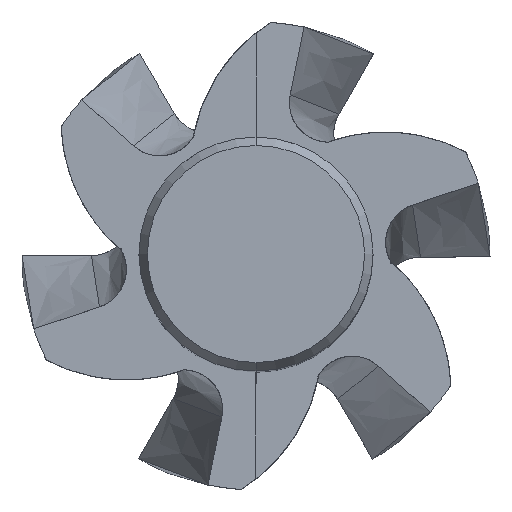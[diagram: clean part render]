
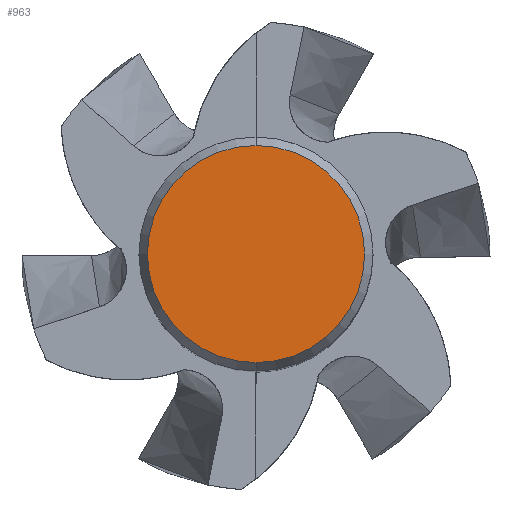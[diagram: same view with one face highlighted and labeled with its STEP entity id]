
A CAD part, top view. The second image highlights one B-rep face of the part: STEP entity #963.
In plain terms, the highlighted planar face has unit normal (0, 0, 1).
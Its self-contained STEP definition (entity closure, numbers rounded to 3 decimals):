
#833=VERTEX_POINT('',#2197);
#963=ADVANCED_FACE('',(#2339),#2340,.T.);
#1347=EDGE_CURVE('',#1721,#833,#2752,.T.);
#1675=EDGE_CURVE('',#833,#1721,#3109,.T.);
#1721=VERTEX_POINT('',#3156);
#2197=CARTESIAN_POINT('',(0.0,7.423,0.0));
#2339=FACE_OUTER_BOUND('',#6097,.T.);
#2340=PLANE('',#6098);
#2752=CIRCLE('',#9394,7.423);
#3109=CIRCLE('',#12410,7.423);
#3156=CARTESIAN_POINT('',(0.,-7.423,0.0));
#6097=EDGE_LOOP('',(#16636,#16637));
#6098=AXIS2_PLACEMENT_3D('',#16638,#16639,#16640);
#9394=AXIS2_PLACEMENT_3D('',#16969,#16970,#16971);
#12410=AXIS2_PLACEMENT_3D('',#17223,#17224,#17225);
#16636=ORIENTED_EDGE('',*,*,#1675,.F.);
#16637=ORIENTED_EDGE('',*,*,#1347,.F.);
#16638=CARTESIAN_POINT('',(0.0,3.711,0.0));
#16639=DIRECTION('',(-0.0,0.0,1.0));
#16640=DIRECTION('',(0.0,-1.0,0.0));
#16969=CARTESIAN_POINT('',(0.0,0.0,0.0));
#16970=DIRECTION('',(0.0,0.0,-1.0));
#16971=DIRECTION('',(0.0,1.0,0.0));
#17223=CARTESIAN_POINT('',(0.0,0.0,0.0));
#17224=DIRECTION('',(0.0,0.0,-1.0));
#17225=DIRECTION('',(0.0,1.0,0.0));
